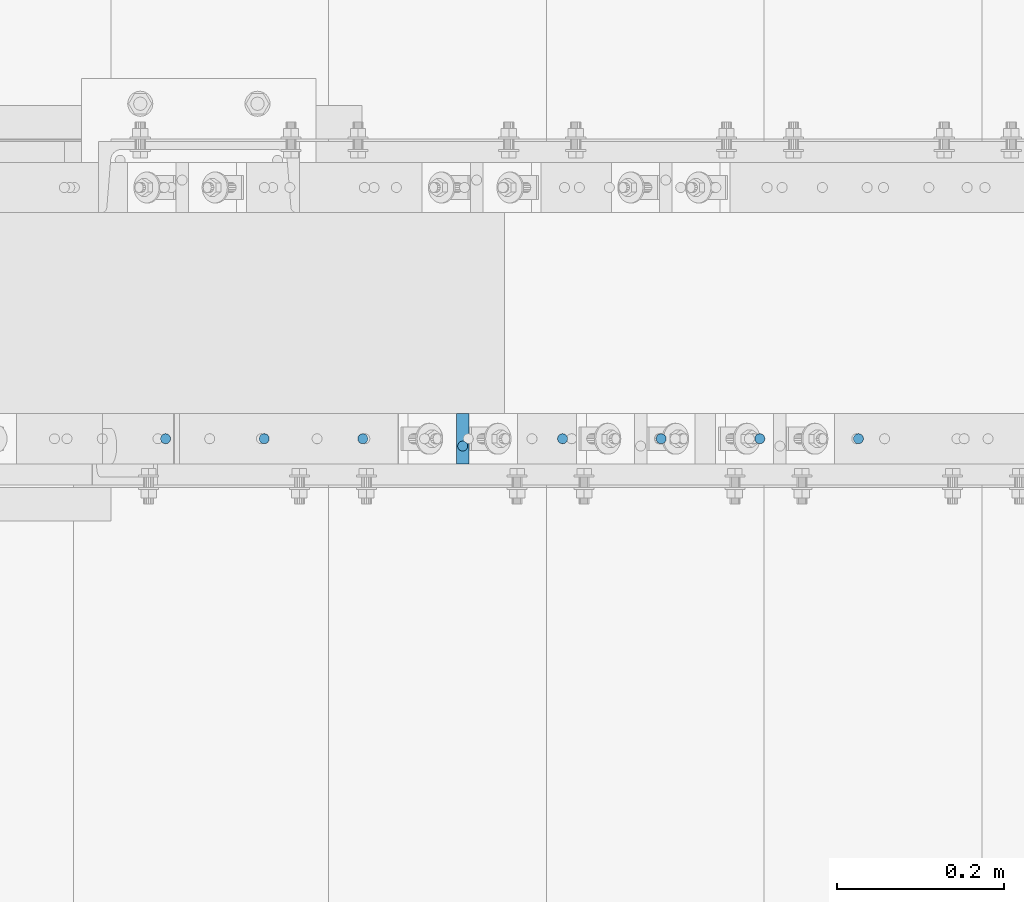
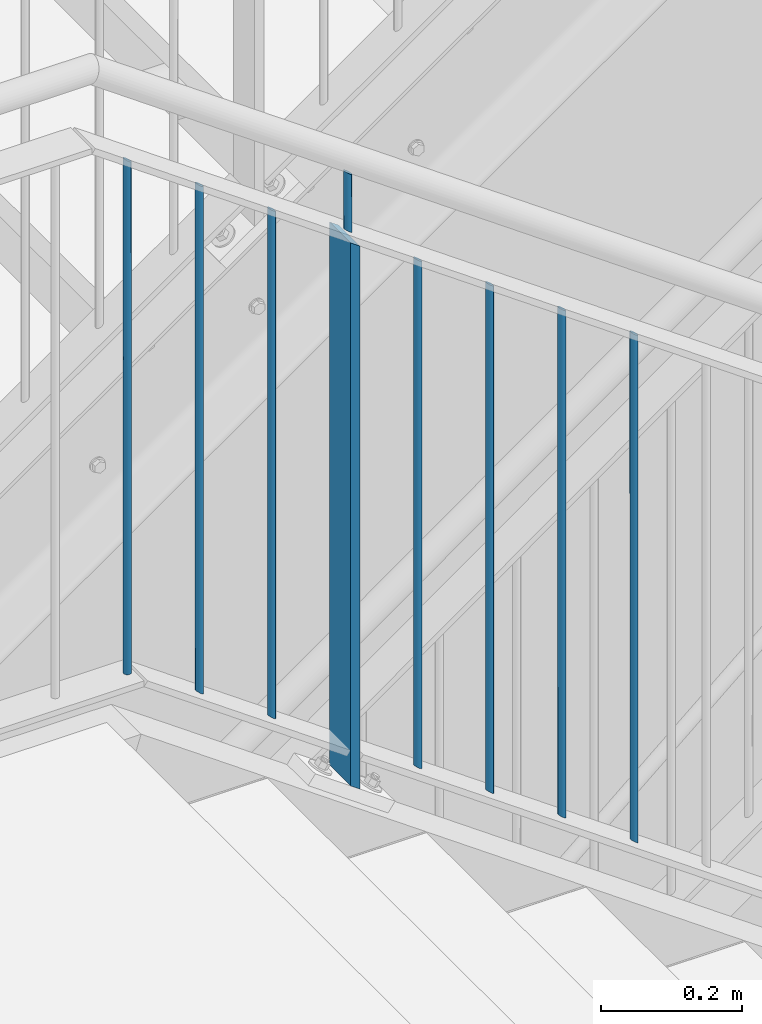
# One storey, part 47 of 825: 9 columns.
"""IFC2X3 building model written with IfcOpenShell, lengths in millimetres."""

from ifc_helpers import new_model, entity, si_unit, converted_unit, frame, origin, origin_with_axes, origin_2d, place, context, project, spatial, rectangle, circle, extrude, clip, halfspace, material, element, save


model = new_model("IFC2X3")

# Units and contexts
model_context = context("Model", 3, precision=1e-09, world=origin_with_axes())
ifc_project = project(units=[si_unit("LENGTHUNIT", "METRE", prefix="MILLI"), si_unit("AREAUNIT", "SQUARE_METRE"), si_unit("VOLUMEUNIT", "CUBIC_METRE"), converted_unit("PLANEANGLEUNIT", "DEGREE", entity("IfcPlaneAngleMeasure", 0.01745329), si_unit("PLANEANGLEUNIT", "RADIAN"), dimensions=[0, 0, 0, 0, 0, 0, 0])], contexts=[model_context])

# Site, building, storey
site_placement = place(None, origin_with_axes())
site = spatial("IfcSite", under=ifc_project, at=site_placement, Name="Cnopf'sche Kinderklinik", CompositionType="ELEMENT")
building_placement = place(site_placement, origin_with_axes())
building = spatial("IfcBuilding", under=site, at=building_placement, Name="Struktur 1", CompositionType="ELEMENT")
storey_placement = place(building_placement, origin_with_axes())
storey = spatial("IfcBuildingStorey", under=building, at=storey_placement, Name="Default Storey", CompositionType="ELEMENT", Elevation=0.0)

# Columns
ifc_material = material(Name="S235JR")
column_1_placement = place(None, frame((5656.713736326, 5791.736971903, 4587.643897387), z_axis=(0.0, 0.0, 1.0), x_axis=(-1.0, 0.0, 0.0)))
element("IfcColumn", 1, at=column_1_placement, inside=storey, material=ifc_material, Name="Railing_Post_Stair#2", ObjectType="Railing_Post_Stair#2", context=model_context, shape_type="Clipping", body=[
    clip(clip(extrude(rectangle(XDim=15.0, YDim=60.0, at=origin_2d()), origin(), (0.0, 0.0, -1.0), 1013.069146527), halfspace(frame((2047.161887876, 5791.736971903, 482.35500148), z_axis=(-0.579973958, 0.0, 0.814635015), x_axis=(0.0, -1.0, 0.0)), True)), halfspace(frame((1604.390620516, 5791.736971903, 1104.274267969), z_axis=(0.579973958, 0.0, -0.814635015), x_axis=(0.0, 1.0, 0.0)), True)),
])
column_2_placement = place(None, frame((6129.213902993, 5791.736971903, 4223.706923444), z_axis=(0.0, 0.0, 1.0), x_axis=(-1.0, 0.0, 0.0)))
element("IfcColumn", 2, at=column_2_placement, inside=storey, material=ifc_material, Name="Railing_Picket_Stair#10", ObjectType="Railing_Picket_Stair#10", context=model_context, shape_type="Clipping", body=[
    clip(clip(extrude(circle(Radius=6.0, at=origin_2d()), origin(), (0.0, 0.0, -1.0), 896.604693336), halfspace(frame((2076.890787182, 5791.736971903, 1468.211241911), z_axis=(0.579973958, 0.0, -0.814635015), x_axis=(0.0, 1.0, 0.0)), True)), halfspace(frame((2490.66335666, 5791.736971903, 887.023726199), z_axis=(-0.579973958, 0.0, 0.814635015), x_axis=(0.0, -1.0, 0.0)), True)),
])
column_3_placement = place(None, frame((6011.463847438, 5791.736971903, 4307.538288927), z_axis=(0.0, 0.0, 1.0), x_axis=(-1.0, 0.0, 0.0)))
element("IfcColumn", 3, at=column_3_placement, inside=storey, material=ifc_material, Name="Railing_Picket_Stair#11", ObjectType="Railing_Picket_Stair#11", context=model_context, shape_type="Clipping", body=[
    clip(clip(extrude(circle(Radius=6.0, at=origin_2d()), origin(), (0.0, 0.0, -1.0), 896.604693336), halfspace(frame((1959.140731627, 5791.736971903, 1384.379876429), z_axis=(0.579973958, 0.0, -0.814635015), x_axis=(0.0, 1.0, 0.0)), True)), halfspace(frame((2372.913301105, 5791.736971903, 803.192360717), z_axis=(-0.579973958, 0.0, 0.814635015), x_axis=(0.0, -1.0, 0.0)), True)),
])
column_4_placement = place(None, frame((5893.713791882, 5791.736971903, 4391.369654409), z_axis=(0.0, 0.0, 1.0), x_axis=(-1.0, 0.0, 0.0)))
element("IfcColumn", 4, at=column_4_placement, inside=storey, material=ifc_material, Name="Railing_Picket_Stair#12", ObjectType="Railing_Picket_Stair#12", context=model_context, shape_type="Clipping", body=[
    clip(clip(extrude(circle(Radius=6.0, at=origin_2d()), origin(), (0.0, 0.0, -1.0), 896.604693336), halfspace(frame((1841.390676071, 5791.736971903, 1300.548510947), z_axis=(0.579973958, 0.0, -0.814635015), x_axis=(0.0, 1.0, 0.0)), True)), halfspace(frame((2255.163245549, 5791.736971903, 719.360995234), z_axis=(-0.579973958, 0.0, 0.814635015), x_axis=(0.0, -1.0, 0.0)), True)),
])
column_5_placement = place(None, frame((5775.963736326, 5791.736971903, 4475.201019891), z_axis=(0.0, 0.0, 1.0), x_axis=(-1.0, 0.0, 0.0)))
element("IfcColumn", 5, at=column_5_placement, inside=storey, material=ifc_material, Name="Railing_Picket_Stair#13", ObjectType="Railing_Picket_Stair#13", context=model_context, shape_type="Clipping", body=[
    clip(clip(extrude(circle(Radius=6.0, at=origin_2d()), origin(), (0.0, 0.0, -1.0), 896.604693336), halfspace(frame((1723.640620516, 5791.736971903, 1216.717145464), z_axis=(0.579973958, 0.0, -0.814635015), x_axis=(0.0, 1.0, 0.0)), True)), halfspace(frame((2137.413189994, 5791.736971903, 635.529629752), z_axis=(-0.579973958, 0.0, 0.814635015), x_axis=(0.0, -1.0, 0.0)), True)),
])
column_6_placement = place(None, frame((5537.463736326, 5791.736971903, 4644.999501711), z_axis=(0.0, 0.0, 1.0), x_axis=(-1.0, 0.0, 0.0)))
element("IfcColumn", 6, at=column_6_placement, inside=storey, material=ifc_material, Name="Railing_Picket_Stair#14", ObjectType="Railing_Picket_Stair#14", context=model_context, shape_type="Clipping", body=[
    clip(clip(extrude(circle(Radius=6.0, at=origin_2d()), origin(), (0.0, 0.0, -1.0), 896.604693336), halfspace(frame((1485.140620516, 5791.736971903, 1046.918663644), z_axis=(0.579973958, 0.0, -0.814635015), x_axis=(0.0, 1.0, 0.0)), True)), halfspace(frame((1898.913189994, 5791.736971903, 465.731147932), z_axis=(-0.579973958, 0.0, 0.814635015), x_axis=(0.0, -1.0, 0.0)), True)),
])
column_7_placement = place(None, frame((5419.713680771, 5791.736971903, 4728.830867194), z_axis=(0.0, 0.0, 1.0), x_axis=(-1.0, 0.0, 0.0)))
element("IfcColumn", 7, at=column_7_placement, inside=storey, material=ifc_material, Name="Railing_Picket_Stair#15", ObjectType="Railing_Picket_Stair#15", context=model_context, shape_type="Clipping", body=[
    clip(clip(extrude(circle(Radius=6.0, at=origin_2d()), origin(), (0.0, 0.0, -1.0), 896.604693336), halfspace(frame((1367.39056496, 5791.736971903, 963.087298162), z_axis=(0.579973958, 0.0, -0.814635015), x_axis=(0.0, 1.0, 0.0)), True)), halfspace(frame((1781.163134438, 5791.736971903, 381.89978245), z_axis=(-0.579973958, 0.0, 0.814635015), x_axis=(0.0, -1.0, 0.0)), True)),
])
column_8_placement = place(None, frame((5301.963625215, 5791.736971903, 4812.662232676), z_axis=(0.0, 0.0, 1.0), x_axis=(-1.0, 0.0, 0.0)))
element("IfcColumn", 8, at=column_8_placement, inside=storey, material=ifc_material, Name="Railing_Picket_Landing#16", ObjectType="Railing_Picket_Landing#16", context=model_context, shape_type="Clipping", body=[
    clip(extrude(circle(Radius=6.0, at=origin_2d()), origin(), (0.0, 0.0, -1.0), 895.662232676), halfspace(frame((1249.640509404, 5791.736971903, 879.25593268), z_axis=(0.579973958, 0.0, -0.814635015), x_axis=(0.0, 1.0, 0.0)), True)),
])
column_9_placement = place(None, frame((5656.713736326, 5782.936971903, 4672.375696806), z_axis=(0.0, 0.0, 1.0), x_axis=(0.0, 1.0, 0.0)))
element("IfcColumn", 9, at=column_9_placement, inside=storey, material=ifc_material, Name="Bar#2", ObjectType="Bar#2", context=model_context, shape_type="Clipping", body=[
    clip(clip(extrude(circle(Radius=6.0, at=origin_2d()), origin(), (0.0, 0.0, -1.0), 120.832105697), halfspace(frame((-5782.936971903, 1598.589720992, 1027.690447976), z_axis=(0.0, -0.579973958, 0.814635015), x_axis=(1.0, 0.0, 0.0)), True)), halfspace(frame((-5782.936971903, 1551.344171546, 1094.051839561), z_axis=(0.0, 0.579973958, -0.814635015), x_axis=(-1.0, 0.0, 0.0)), True)),
])

save(model, "model.ifc")
